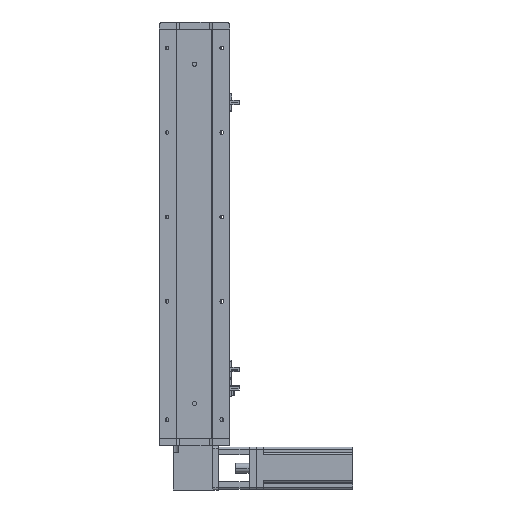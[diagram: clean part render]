
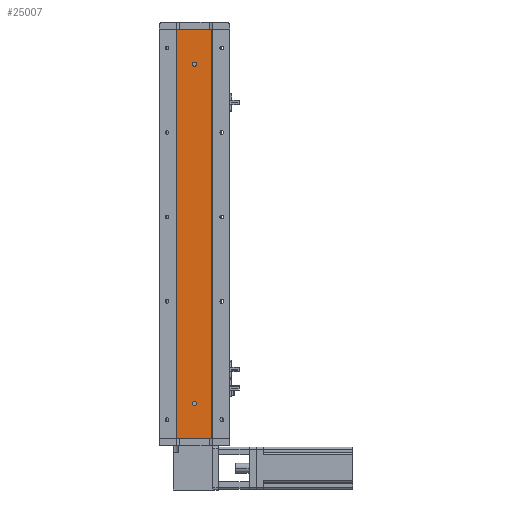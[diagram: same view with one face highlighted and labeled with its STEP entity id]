
A CAD part, left-side view. The second image highlights one B-rep face of the part: STEP entity #25007.
In plain terms, the highlighted planar face has unit normal (-1, 0, 0).
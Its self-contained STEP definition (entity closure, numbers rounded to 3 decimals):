
#850 = CARTESIAN_POINT ( 'NONE',  ( -18.926, -24.785, 0. ) ) ;
#939 = DIRECTION ( 'NONE',  ( 1., 0., 0. ) ) ;
#1368 = VECTOR ( 'NONE', #16381, 1000. ) ;
#2728 = AXIS2_PLACEMENT_3D ( 'NONE', #7194, #31828, #10724 ) ;
#3453 = CARTESIAN_POINT ( 'NONE',  ( -18.926, 0., 50. ) ) ;
#4768 = EDGE_CURVE ( 'NONE', #40356, #28155, #10747, .T. ) ;
#5341 = CIRCLE ( 'NONE', #38826, 3. ) ;
#6519 = CARTESIAN_POINT ( 'NONE',  ( -18.926, -24.785, 582. ) ) ;
#6998 = DIRECTION ( 'NONE',  ( 0., 0., 1. ) ) ;
#7083 = CIRCLE ( 'NONE', #2728, 3. ) ;
#7122 = ORIENTED_EDGE ( 'NONE', *, *, #27270, .F. ) ;
#7194 = CARTESIAN_POINT ( 'NONE',  ( -18.926, 0., 532. ) ) ;
#7719 = PLANE ( 'NONE',  #8780 ) ;
#7976 = FACE_OUTER_BOUND ( 'NONE', #40472, .T. ) ;
#8318 = AXIS2_PLACEMENT_3D ( 'NONE', #37880, #16720, #41445 ) ;
#8550 = DIRECTION ( 'NONE',  ( -1., 0., 0. ) ) ;
#8716 = CIRCLE ( 'NONE', #8318, 3. ) ;
#8780 = AXIS2_PLACEMENT_3D ( 'NONE', #22006, #939, #25598 ) ;
#9726 = DIRECTION ( 'NONE',  ( 0., 0., -1. ) ) ;
#10572 = ORIENTED_EDGE ( 'NONE', *, *, #35995, .F. ) ;
#10724 = DIRECTION ( 'NONE',  ( 0., 0., 1. ) ) ;
#10747 = LINE ( 'NONE', #16654, #1368 ) ;
#10944 = AXIS2_PLACEMENT_3D ( 'NONE', #29690, #8550, #33211 ) ;
#12164 = VECTOR ( 'NONE', #26910, 1000. ) ;
#13772 = LINE ( 'NONE', #16781, #40848 ) ;
#14584 = LINE ( 'NONE', #6519, #41691 ) ;
#14792 = CARTESIAN_POINT ( 'NONE',  ( -18.926, -24.785, 582. ) ) ;
#15021 = ORIENTED_EDGE ( 'NONE', *, *, #20973, .T. ) ;
#16381 = DIRECTION ( 'NONE',  ( 0., -1., 0. ) ) ;
#16654 = CARTESIAN_POINT ( 'NONE',  ( -18.926, 24.785, 582. ) ) ;
#16720 = DIRECTION ( 'NONE',  ( -1., 0., 0. ) ) ;
#16781 = CARTESIAN_POINT ( 'NONE',  ( -18.926, 24.785, 582. ) ) ;
#17664 = CARTESIAN_POINT ( 'NONE',  ( -18.926, 24.785, 582. ) ) ;
#18258 = CARTESIAN_POINT ( 'NONE',  ( -18.926, 0., 535. ) ) ;
#19739 = VERTEX_POINT ( 'NONE', #850 ) ;
#20711 = ORIENTED_EDGE ( 'NONE', *, *, #29564, .T. ) ;
#20973 = EDGE_CURVE ( 'NONE', #24906, #19739, #21535, .T. ) ;
#21535 = LINE ( 'NONE', #26778, #12164 ) ;
#22006 = CARTESIAN_POINT ( 'NONE',  ( -18.926, 24.785, 582. ) ) ;
#24800 = ORIENTED_EDGE ( 'NONE', *, *, #4768, .F. ) ;
#24853 = EDGE_CURVE ( 'NONE', #28155, #19739, #14584, .T. ) ;
#24906 = VERTEX_POINT ( 'NONE', #31437 ) ;
#25007 = ADVANCED_FACE ( 'NONE', ( #25616, #44428, #7976 ), #7719, .F. ) ;
#25598 = DIRECTION ( 'NONE',  ( 0., 0., -1. ) ) ;
#25616 = FACE_BOUND ( 'NONE', #26134, .T. ) ;
#26134 = EDGE_LOOP ( 'NONE', ( #37051, #7122 ) ) ;
#26778 = CARTESIAN_POINT ( 'NONE',  ( -18.926, 24.785, 0. ) ) ;
#26910 = DIRECTION ( 'NONE',  ( 0., -1., 0. ) ) ;
#27102 = VERTEX_POINT ( 'NONE', #18258 ) ;
#27270 = EDGE_CURVE ( 'NONE', #38628, #30939, #8716, .T. ) ;
#27417 = DIRECTION ( 'NONE',  ( 0., 0., -1. ) ) ;
#27428 = EDGE_CURVE ( 'NONE', #29881, #27102, #7083, .T. ) ;
#27945 = EDGE_CURVE ( 'NONE', #30939, #38628, #5341, .T. ) ;
#28072 = DIRECTION ( 'NONE',  ( -1., 0., 0. ) ) ;
#28155 = VERTEX_POINT ( 'NONE', #14792 ) ;
#29564 = EDGE_CURVE ( 'NONE', #40356, #24906, #13772, .T. ) ;
#29690 = CARTESIAN_POINT ( 'NONE',  ( -18.926, 0., 532. ) ) ;
#29881 = VERTEX_POINT ( 'NONE', #40565 ) ;
#30939 = VERTEX_POINT ( 'NONE', #33769 ) ;
#31437 = CARTESIAN_POINT ( 'NONE',  ( -18.926, 24.785, 0. ) ) ;
#31828 = DIRECTION ( 'NONE',  ( -1., 0., 0. ) ) ;
#33211 = DIRECTION ( 'NONE',  ( 0., 0., 1. ) ) ;
#33281 = CARTESIAN_POINT ( 'NONE',  ( -18.926, 0., 47. ) ) ;
#33769 = CARTESIAN_POINT ( 'NONE',  ( -18.926, 0., 53. ) ) ;
#34759 = EDGE_LOOP ( 'NONE', ( #10572, #38461 ) ) ;
#35995 = EDGE_CURVE ( 'NONE', #27102, #29881, #39205, .T. ) ;
#37051 = ORIENTED_EDGE ( 'NONE', *, *, #27945, .F. ) ;
#37880 = CARTESIAN_POINT ( 'NONE',  ( -18.926, 0., 50. ) ) ;
#38461 = ORIENTED_EDGE ( 'NONE', *, *, #27428, .F. ) ;
#38628 = VERTEX_POINT ( 'NONE', #33281 ) ;
#38826 = AXIS2_PLACEMENT_3D ( 'NONE', #3453, #28072, #6998 ) ;
#39205 = CIRCLE ( 'NONE', #10944, 3. ) ;
#40356 = VERTEX_POINT ( 'NONE', #17664 ) ;
#40472 = EDGE_LOOP ( 'NONE', ( #15021, #41694, #24800, #20711 ) ) ;
#40565 = CARTESIAN_POINT ( 'NONE',  ( -18.926, 0., 529. ) ) ;
#40848 = VECTOR ( 'NONE', #9726, 1000. ) ;
#41445 = DIRECTION ( 'NONE',  ( 0., 0., 1. ) ) ;
#41691 = VECTOR ( 'NONE', #27417, 1000. ) ;
#41694 = ORIENTED_EDGE ( 'NONE', *, *, #24853, .F. ) ;
#44428 = FACE_BOUND ( 'NONE', #34759, .T. ) ;
